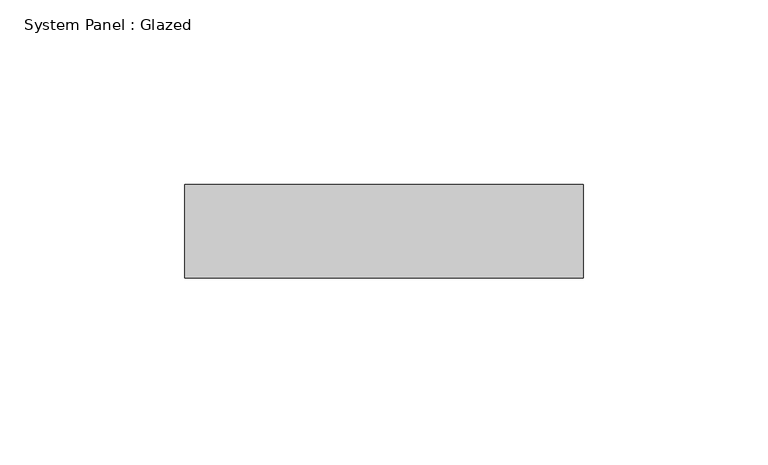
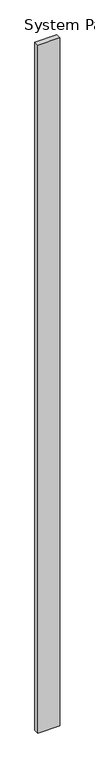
"""IFC4 building model written with IfcOpenShell, lengths in millimetres: plate geometry, System Panel : Glazed."""

from ifc_helpers import new_model, si_unit, origin, origin_with_axes, place, context, project, spatial, polyline, outline, extrude, source, transform, mapped, element, save


def system_panel_glazed_712b49f4(model_context):
    return source(origin(), model_context, "Body", "SweptSolid", [
        extrude(outline(polyline([(53.975, 19.05), (-53.975, 19.05), (-53.975, 44.45), (53.975, 44.45), (53.975, 19.05)])), origin_with_axes(), (0.0, 0.0, 1.0), 3594.1),
    ])


if __name__ == "__main__":
    model = new_model("IFC4")
    model_context = context("Model", 3, world=origin())
    ifc_project = project(units=[si_unit("LENGTHUNIT", "METRE", prefix="MILLI")], contexts=[model_context])
    site = spatial("IfcSite", under=ifc_project)
    building = spatial("IfcBuilding", under=site)
    placement = place(None, origin())
    system_panel_glazed_shape = system_panel_glazed_712b49f4(model_context)
    element("IfcPlate", 1, ObjectType="System Panel : Glazed", at=placement, inside=building, context=model_context, shape_type="MappedRepresentation", body=[
        mapped(system_panel_glazed_shape, transform((0.0, 0.0, 0.0), x_axis=(1.0, 0.0, 0.0), y_axis=(0.0, 1.0, 0.0), z_axis=(0.0, 0.0, 1.0))),
    ])
    save(model, "model.ifc")
